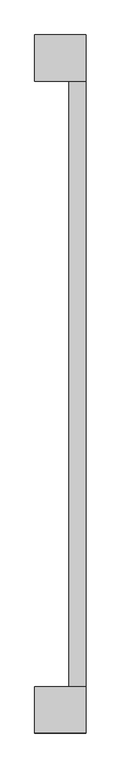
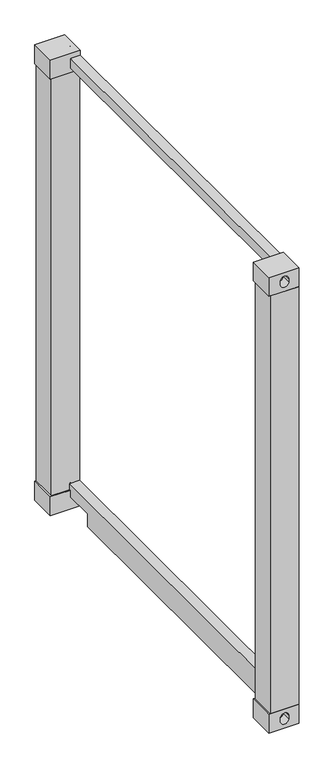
"""IFC4 building model written with IfcOpenShell, lengths in millimetres: beam geometry, Config-6 Right side wall acc : Config-6 Right side wall acc."""

from ifc_helpers import new_model, si_unit, frame, origin, place, context, project, spatial, polyline, circle_curve, ellipse_curve, outline, extrude, source, transform, mapped, element, save
from ifc_brep_helpers import plane_surface, revolved_surface, advanced_brep


def beam_f05dd575(model_context):
    return source(origin(), model_context, "Body", "SolidModel", [
        advanced_brep(
        [(2811.0, 102.6814789, 120.0), (2811.0, -59.3185165, 120.0), (2991.0, -59.3185165, 120.0), (2991.0, 102.6814789, 120.0), (2811.0, 102.6814789, 2.7e-06), (2991.0, 102.6814789, 2.7e-06), (2991.0, -59.3185165, 2.7e-06), (2811.0, -59.3185165, 2.7e-06), (2991.0, -1.8185152, 69.9917958), (2991.0, 48.1814807, 69.9881424), (2991.0, 48.1814807, 49.9881424), (2991.0, -1.8185152, 49.9917958), (2881.0, -59.3185165, 70.0000027), (2931.0, -59.3185165, 70.0000027), (2931.0000022, -59.3185165, 50.0000031), (2881.0, -59.3185165, 50.0000027), (2881.5, -1.3185165, 45.0250655), (2930.5, -1.3185165, 45.0250655), (2930.5, -1.3185165, 74.9749399), (2881.5, -1.3185165, 74.9749399), (2881.0, -1.8185165, 70.0000027), (2931.0, -1.8185165, 70.0000027), (2931.0000022, -1.8185152, 50.0000031), (2881.0, -1.8185152, 50.0000027), (2880.9999973, 48.1814807, 49.9881424), (2880.9999973, 48.1814807, 69.9881424)],
        [
            (0, 1),
            (1, 2),
            (2, 3),
            (3, 0),
            (4, 5),
            (5, 6),
            (6, 7),
            (7, 4),
            (3, 5),
            (4, 0),
            (2, 6),
            (8, 9, circle_curve(frame((2991.0, 23.1814835, 70.0000027), z_axis=(-1.0, 0.0, 0.0), x_axis=(0.0, -1.0000000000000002, 0.0)), 25.0)),
            (9, 10),
            (10, 11, circle_curve(frame((2991.0, 23.1814835, 50.0000027), z_axis=(-1.0, 0.0, 0.0), x_axis=(0.0, -1.0000000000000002, 0.0)), 25.0)),
            (11, 8),
            (1, 7),
            (12, 13, circle_curve(frame((2906.0, -59.3185165, 70.0000027), z_axis=(0.0, 1.0, 0.0), x_axis=(1.0000000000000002, 0.0, 0.0)), 25.0)),
            (13, 14),
            (14, 15, circle_curve(frame((2906.0, -59.3185165, 50.0000027), z_axis=(0.0, 1.0, 0.0), x_axis=(1.0000000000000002, 0.0, 0.0)), 25.0)),
            (15, 12),
            (16, 17, circle_curve(frame((2906.0, -1.3185165, 50.0000027), z_axis=(0.0, -1.0, 0.0), x_axis=(1.0000000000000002, 0.0, 0.0)), 25.0)),
            (17, 16),
            (18, 19, circle_curve(frame((2906.0, -1.3185165, 70.0000027), z_axis=(0.0, -1.0, 0.0), x_axis=(1.0000000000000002, 0.0, 0.0)), 25.0)),
            (19, 18),
            (12, 20),
            (20, 19, ellipse_curve(frame((2906.0, 23.1814835, 70.0000027), z_axis=(-0.7071067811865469, 0.7071067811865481, 0.0), x_axis=(-0.707106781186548, -0.7071067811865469, 0.0)), 35.3553391, 25.0)),
            (18, 21, ellipse_curve(frame((2906.0, 23.1814835, 70.0000027), z_axis=(0.7071067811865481, 0.7071067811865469, 0.0), x_axis=(0.7071067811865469, -0.7071067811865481, 0.0)), 35.3553391, 25.0)),
            (21, 13),
            (21, 22),
            (22, 14),
            (22, 17, ellipse_curve(frame((2906.0, 23.1814835, 50.0000027), z_axis=(0.7071067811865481, 0.7071067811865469, 0.0), x_axis=(0.7071067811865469, -0.7071067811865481, 0.0)), 35.3553391, 25.0)),
            (16, 23, ellipse_curve(frame((2906.0, 23.1814835, 50.0000027), z_axis=(-0.7071067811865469, 0.7071067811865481, 0.0), x_axis=(-0.707106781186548, -0.7071067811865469, 0.0)), 35.3553391, 25.0)),
            (23, 15),
            (23, 24, circle_curve(frame((2880.9999973, 23.1814835, 50.0000027), z_axis=(1.0, 0.0, 0.0), x_axis=(0.0, -1.0000000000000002, 0.0)), 25.0)),
            (24, 25),
            (25, 20, circle_curve(frame((2880.9999973, 23.1814835, 70.0000027), z_axis=(1.0, 0.0, 0.0), x_axis=(0.0, -1.0000000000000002, 0.0)), 25.0)),
            (25, 9),
            (8, 21),
            (11, 22),
            (10, 24),
        ],
        [
            plane_surface(frame((2811.0, 102.6814789, 120.0), z_axis=(0.0, 0.0, 1.0), x_axis=(0.0, -1.0, 0.0))),
            plane_surface(frame((2811.0, 102.6814789, 2.7e-06), z_axis=(0.0, 0.0, -1.0), x_axis=(0.0, 1.0, 0.0))),
            plane_surface(frame((2991.0, 102.6814789, 120.0), z_axis=(0.0, 1.0, 0.0), x_axis=(0.0, 0.0, -1.0))),
            plane_surface(frame((2991.0, -59.3185165, 120.0), z_axis=(1.0, 0.0, 0.0), x_axis=(0.0, 0.0, -1.0))),
            plane_surface(frame((2811.0, -59.3185165, 120.0), z_axis=(0.0, -1.0, 0.0), x_axis=(0.0, 0.0, -1.0))),
            plane_surface(frame((2811.0, 102.6814789, 120.0), z_axis=(-1.0, 0.0, 0.0), x_axis=(0.0, 0.0, -1.0))),
            plane_surface(frame((2880.9999973, -1.3185165, 70.0000042), z_axis=(0.0, -1.0, 0.0), x_axis=(0.0, 0.0, 1.0))),
            revolved_surface(polyline([(2931.0, -59.31851650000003, 70.0000027), (2931.0, 48.181483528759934, 70.0000027)]), (2906.0, -1.3185165, 70.0000027), (0.0, -1.0000000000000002, 0.0)),
            plane_surface(frame((2931.0000022, -59.3185165, 50.0000031), z_axis=(-1.0, 0.0, 0.0), x_axis=(0.0, 1.0, 0.0))),
            revolved_surface(polyline([(2931.0, -59.31851650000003, 50.0000027), (2931.0, 48.181483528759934, 50.0000027)]), (2906.0, -1.3185165, 50.0000027), (0.0, -1.0000000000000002, 0.0)),
            plane_surface(frame((2880.9999973, -59.3185165, 70.0000042), z_axis=(1.0, 0.0, 0.0), x_axis=(0.0, 1.0, 0.0))),
            revolved_surface(polyline([(2991.0, -1.8185165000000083, 70.0000027), (2880.9999973, -1.8185165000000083, 70.0000027)]), (2881.0, 23.1814835, 70.0000027), (1.0000000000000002, 0.0, 0.0)),
            plane_surface(frame((2991.0, -1.8185152, 69.9917958), z_axis=(0.0, 1.0, 0.0), x_axis=(-1.0, 0.0, 0.0))),
            revolved_surface(polyline([(2991.0, -1.8185165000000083, 50.0000027), (2880.9999973, -1.8185165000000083, 50.0000027)]), (2881.0, 23.1814835, 50.0000027), (1.0000000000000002, 0.0, 0.0)),
            plane_surface(frame((2991.0, 48.1814807, 49.9881424), z_axis=(0.0, -1.0, 0.0), x_axis=(-1.0, 0.0, 0.0))),
        ],
        [
            (0, [[1, 2, 3, 4]]),
            (1, [[5, 6, 7, 8]]),
            (2, [[-4, 9, -5, 10]]),
            (3, [[-3, 11, -6, -9], [12, 13, 14, 15]]),
            (4, [[-2, 16, -7, -11], [17, 18, 19, 20]]),
            (5, [[-1, -10, -8, -16]]),
            (6, [[21, 22]]),
            (6, [[23, 24]]),
            (7, [[-17, 25, 26, -23, 27, 28]]),
            (8, [[-18, -28, 29, 30]]),
            (9, [[-19, -30, 31, -21, 32, 33]]),
            (10, [[-20, -33, 34, 35, 36, -25]]),
            (11, [[-36, 37, -12, 38, -27, -24, -26]]),
            (12, [[-38, -15, 39, -29]]),
            (13, [[-34, -32, -22, -31, -39, -14, 40]]),
            (14, [[-35, -40, -13, -37]]),
        ],
    ),
        advanced_brep(
        [(2811.0, 2218.6814881, 120.0), (2991.0, 2218.6814881, 120.0), (2991.0, 2380.6814835, 120.0), (2811.0, 2380.6814835, 120.0), (2811.0, 2218.6814881, 2.7e-06), (2811.0, 2380.6814835, 2.7e-06), (2991.0, 2380.6814835, 2.7e-06), (2991.0, 2218.6814881, 2.7e-06), (2991.0, 2323.1814821, 69.9917958), (2991.0, 2323.1814821, 49.9917958), (2991.0, 2273.1814863, 49.9881424), (2991.0, 2273.1814863, 69.9881424), (2880.9999973, 2380.6814835, 70.0000027), (2880.9999973, 2380.6814835, 50.0000027), (2931.0, 2380.6814835, 50.0000031), (2931.0000022, 2380.6814835, 70.0000027), (2881.5, 2322.6814835, 45.0250655), (2930.5, 2322.6814835, 45.0250655), (2930.5, 2322.6814835, 74.9749399), (2881.5, 2322.6814835, 74.9749399), (2931.0, 2323.1814835, 70.0000027), (2881.0, 2323.1814835, 70.0000027), (2931.0000022, 2323.1814821, 50.0000031), (2881.0, 2323.1814821, 50.0000027), (2880.9999973, 2273.1814863, 69.9881424), (2880.9999973, 2273.1814863, 49.9881424)],
        [
            (0, 1),
            (1, 2),
            (2, 3),
            (3, 0),
            (4, 5),
            (5, 6),
            (6, 7),
            (7, 4),
            (0, 4),
            (7, 1),
            (6, 2),
            (8, 9),
            (9, 10, circle_curve(frame((2991.0, 2298.1814835, 50.0000027), z_axis=(-1.0, 0.0, 0.0), x_axis=(0.0, 1.0000000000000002, 0.0)), 25.0)),
            (10, 11),
            (11, 8, circle_curve(frame((2991.0, 2298.1814835, 70.0000027), z_axis=(-1.0, 0.0, 0.0), x_axis=(0.0, 1.0000000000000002, 0.0)), 25.0)),
            (5, 3),
            (12, 13),
            (13, 14, circle_curve(frame((2906.0, 2380.6814835, 50.0000027), z_axis=(0.0, -1.0, 0.0), x_axis=(1.0000000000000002, 0.0, 0.0)), 25.0)),
            (14, 15),
            (15, 12, circle_curve(frame((2906.0, 2380.6814835, 70.0000027), z_axis=(0.0, -1.0, 0.0), x_axis=(1.0000000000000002, 0.0, 0.0)), 25.0)),
            (16, 17),
            (17, 16, circle_curve(frame((2906.0, 2322.6814835, 50.0000027), z_axis=(0.0, 1.0, 0.0), x_axis=(1.0000000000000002, 0.0, 0.0)), 25.0)),
            (18, 19),
            (19, 18, circle_curve(frame((2906.0, 2322.6814835, 70.0000027), z_axis=(0.0, 1.0, 0.0), x_axis=(1.0000000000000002, 0.0, 0.0)), 25.0)),
            (15, 20),
            (20, 18, ellipse_curve(frame((2906.0, 2298.1814835, 70.0000027), z_axis=(0.7071067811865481, -0.7071067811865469, 0.0), x_axis=(0.7071067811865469, 0.7071067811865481, 0.0)), 35.3553391, 25.0)),
            (19, 21, ellipse_curve(frame((2906.0, 2298.1814835, 70.0000027), z_axis=(-0.7071067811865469, -0.7071067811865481, 0.0), x_axis=(-0.707106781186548, 0.7071067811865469, 0.0)), 35.3553391, 25.0)),
            (21, 12),
            (14, 22),
            (22, 20),
            (13, 23),
            (23, 16, ellipse_curve(frame((2906.0, 2298.1814835, 50.0000027), z_axis=(-0.7071067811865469, -0.7071067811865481, 0.0), x_axis=(-0.707106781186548, 0.7071067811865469, 0.0)), 35.3553391, 25.0)),
            (17, 22, ellipse_curve(frame((2906.0, 2298.1814835, 50.0000027), z_axis=(0.7071067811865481, -0.7071067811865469, 0.0), x_axis=(0.7071067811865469, 0.7071067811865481, 0.0)), 35.3553391, 25.0)),
            (21, 24, circle_curve(frame((2880.9999973, 2298.1814835, 70.0000027), z_axis=(1.0, 0.0, 0.0), x_axis=(0.0, 1.0000000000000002, 0.0)), 25.0)),
            (24, 25),
            (25, 23, circle_curve(frame((2880.9999973, 2298.1814835, 50.0000027), z_axis=(1.0, 0.0, 0.0), x_axis=(0.0, 1.0000000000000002, 0.0)), 25.0)),
            (20, 8),
            (11, 24),
            (22, 9),
            (25, 10),
        ],
        [
            plane_surface(frame((2811.0, 2218.6814881, 120.0), z_axis=(0.0, 0.0, 1.0), x_axis=(0.0, 1.0, 0.0))),
            plane_surface(frame((2811.0, 2218.6814881, 2.7e-06), z_axis=(0.0, 0.0, -1.0), x_axis=(0.0, -1.0, 0.0))),
            plane_surface(frame((2991.0, 2218.6814881, 120.0), z_axis=(0.0, -1.0, 0.0), x_axis=(0.0, 0.0, -1.0))),
            plane_surface(frame((2991.0, 2380.6814835, 120.0), z_axis=(1.0, 0.0, 0.0), x_axis=(0.0, 0.0, -1.0))),
            plane_surface(frame((2811.0, 2380.6814835, 120.0), z_axis=(0.0, 1.0, 0.0), x_axis=(0.0, 0.0, -1.0))),
            plane_surface(frame((2811.0, 2218.6814881, 120.0), z_axis=(-1.0, 0.0, 0.0), x_axis=(0.0, 0.0, -1.0))),
            plane_surface(frame((2880.9999973, 2322.6814835, 70.0000042), z_axis=(0.0, 1.0, 0.0), x_axis=(0.0, 0.0, 1.0))),
            revolved_surface(polyline([(2931.0, 2380.6814835, 70.0000027), (2931.0, 2273.18148347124, 70.0000027)]), (2906.0, 2322.6814835, 70.0000027), (0.0, 1.0000000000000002, 0.0)),
            plane_surface(frame((2931.0000022, 2380.6814835, 50.0000031), z_axis=(-1.0, 0.0, 0.0), x_axis=(0.0, -1.0, 0.0))),
            revolved_surface(polyline([(2931.0, 2380.6814835, 50.0000027), (2931.0, 2273.18148347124, 50.0000027)]), (2906.0, 2322.6814835, 50.0000027), (0.0, 1.0000000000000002, 0.0)),
            plane_surface(frame((2880.9999973, 2380.6814835, 70.0000042), z_axis=(1.0, 0.0, 0.0), x_axis=(0.0, -1.0, 0.0))),
            revolved_surface(polyline([(2991.0, 2323.1814835, 70.0000027), (2880.9999973, 2323.1814835, 70.0000027)]), (2881.0, 2298.1814835, 70.0000027), (1.0000000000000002, 0.0, 0.0)),
            plane_surface(frame((2991.0, 2323.1814821, 69.9917958), z_axis=(0.0, -1.0, 0.0), x_axis=(-1.0, 0.0, 0.0))),
            revolved_surface(polyline([(2991.0, 2323.1814835, 50.0000027), (2880.9999973, 2323.1814835, 50.0000027)]), (2881.0, 2298.1814835, 50.0000027), (1.0000000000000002, 0.0, 0.0)),
            plane_surface(frame((2991.0, 2273.1814863, 49.9881424), z_axis=(0.0, 1.0, 0.0), x_axis=(-1.0, 0.0, 0.0))),
        ],
        [
            (0, [[1, 2, 3, 4]]),
            (1, [[5, 6, 7, 8]]),
            (2, [[9, -8, 10, -1]]),
            (3, [[-10, -7, 11, -2], [12, 13, 14, 15]]),
            (4, [[-11, -6, 16, -3], [17, 18, 19, 20]]),
            (5, [[-16, -5, -9, -4]]),
            (6, [[21, 22]]),
            (6, [[23, 24]]),
            (7, [[25, 26, -24, 27, 28, -20]]),
            (8, [[29, 30, -25, -19]]),
            (9, [[31, 32, -22, 33, -29, -18]]),
            (10, [[-28, 34, 35, 36, -31, -17]]),
            (11, [[-27, -23, -26, 37, -15, 38, -34]]),
            (12, [[-30, 39, -12, -37]]),
            (13, [[40, -13, -39, -33, -21, -32, -36]]),
            (14, [[-38, -14, -40, -35]]),
        ],
    ),
        advanced_brep(
        [(2811.0, 102.6814789, 2895.9999973), (2811.0, -59.3185165, 2895.9999973), (2991.0, -59.3185165, 2895.9999973), (2991.0, 102.6814789, 2895.9999973), (2811.0, 102.6814789, 2776.0), (2991.0, 102.6814789, 2776.0), (2991.0, -59.3185165, 2776.0), (2811.0, -59.3185165, 2776.0), (2991.0, -1.8185152, 2845.9917931), (2991.0, 48.1814807, 2845.9881397), (2991.0, 48.1814807, 2825.9881397), (2991.0, -1.8185152, 2825.9917931), (2881.0, -59.3185165, 2846.0), (2931.0, -59.3185165, 2846.0), (2931.0000022, -59.3185165, 2826.0000004), (2881.0, -59.3185165, 2826.0), (2881.5, -1.3185165, 2821.0250628), (2930.5, -1.3185165, 2821.0250628), (2930.5, -1.3185165, 2850.9749372), (2881.5, -1.3185165, 2850.9749372), (2881.0, -1.8185165, 2846.0), (2931.0, -1.8185165, 2846.0), (2931.0000022, -1.8185152, 2826.0000004), (2881.0, -1.8185152, 2826.0), (2880.9999973, 48.1814807, 2825.9881397), (2880.9999973, 48.1814807, 2845.9881397)],
        [
            (0, 1),
            (1, 2),
            (2, 3),
            (3, 0),
            (4, 5),
            (5, 6),
            (6, 7),
            (7, 4),
            (3, 5),
            (4, 0),
            (2, 6),
            (8, 9, circle_curve(frame((2991.0, 23.1814835, 2846.0), z_axis=(-1.0, 0.0, 0.0), x_axis=(0.0, -1.0000000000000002, 0.0)), 25.0)),
            (9, 10),
            (10, 11, circle_curve(frame((2991.0, 23.1814835, 2826.0), z_axis=(-1.0, 0.0, 0.0), x_axis=(0.0, -1.0000000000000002, 0.0)), 25.0)),
            (11, 8),
            (1, 7),
            (12, 13, circle_curve(frame((2906.0, -59.3185165, 2846.0), z_axis=(0.0, 1.0, 0.0), x_axis=(1.0000000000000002, 0.0, 0.0)), 25.0)),
            (13, 14),
            (14, 15, circle_curve(frame((2906.0, -59.3185165, 2826.0), z_axis=(0.0, 1.0, 0.0), x_axis=(1.0000000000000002, 0.0, 0.0)), 25.0)),
            (15, 12),
            (16, 17, circle_curve(frame((2906.0, -1.3185165, 2826.0), z_axis=(0.0, -1.0, 0.0), x_axis=(1.0000000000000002, 0.0, 0.0)), 25.0)),
            (17, 16),
            (18, 19, circle_curve(frame((2906.0, -1.3185165, 2846.0), z_axis=(0.0, -1.0, 0.0), x_axis=(1.0000000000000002, 0.0, 0.0)), 25.0)),
            (19, 18),
            (12, 20),
            (20, 19, ellipse_curve(frame((2906.0, 23.1814835, 2846.0), z_axis=(-0.7071067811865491, 0.7071067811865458, 0.0), x_axis=(-0.7071067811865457, -0.7071067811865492, 0.0)), 35.3553391, 25.0)),
            (18, 21, ellipse_curve(frame((2906.0, 23.1814835, 2846.0), z_axis=(0.7071067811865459, 0.7071067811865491, 0.0), x_axis=(0.7071067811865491, -0.7071067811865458, 0.0)), 35.3553391, 25.0)),
            (21, 13),
            (21, 22),
            (22, 14),
            (22, 17, ellipse_curve(frame((2906.0, 23.1814835, 2826.0), z_axis=(0.7071067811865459, 0.7071067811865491, 0.0), x_axis=(0.7071067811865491, -0.7071067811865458, 0.0)), 35.3553391, 25.0)),
            (16, 23, ellipse_curve(frame((2906.0, 23.1814835, 2826.0), z_axis=(-0.7071067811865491, 0.7071067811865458, 0.0), x_axis=(-0.7071067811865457, -0.7071067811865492, 0.0)), 35.3553391, 25.0)),
            (23, 15),
            (23, 24, circle_curve(frame((2880.9999973, 23.1814835, 2826.0), z_axis=(1.0, 0.0, 0.0), x_axis=(0.0, -1.0000000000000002, 0.0)), 25.0)),
            (24, 25),
            (25, 20, circle_curve(frame((2880.9999973, 23.1814835, 2846.0), z_axis=(1.0, 0.0, 0.0), x_axis=(0.0, -1.0000000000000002, 0.0)), 25.0)),
            (25, 9),
            (8, 21),
            (11, 22),
            (10, 24),
        ],
        [
            plane_surface(frame((2811.0, 102.6814789, 2895.9999973), z_axis=(0.0, 0.0, 1.0), x_axis=(0.0, -1.0, 0.0))),
            plane_surface(frame((2811.0, 102.6814789, 2776.0), z_axis=(0.0, 0.0, -1.0), x_axis=(0.0, 1.0, 0.0))),
            plane_surface(frame((2991.0, 102.6814789, 2895.9999973), z_axis=(0.0, 1.0, 0.0), x_axis=(0.0, 0.0, -1.0))),
            plane_surface(frame((2991.0, -59.3185165, 2895.9999973), z_axis=(1.0, 0.0, 0.0), x_axis=(0.0, 0.0, -1.0))),
            plane_surface(frame((2811.0, -59.3185165, 2895.9999973), z_axis=(0.0, -1.0, 0.0), x_axis=(0.0, 0.0, -1.0))),
            plane_surface(frame((2811.0, 102.6814789, 2895.9999973), z_axis=(-1.0, 0.0, 0.0), x_axis=(0.0, 0.0, -1.0))),
            plane_surface(frame((2880.9999973, -1.3185165, 2846.0000014), z_axis=(0.0, -1.0, 0.0), x_axis=(0.0, 0.0, 1.0))),
            revolved_surface(polyline([(2931.0, -59.31851650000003, 2846.0), (2931.0, 48.18148352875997, 2846.0)]), (2906.0, -1.3185165, 2846.0), (0.0, -1.0000000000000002, 0.0)),
            plane_surface(frame((2931.0000022, -59.3185165, 2826.0000004), z_axis=(-1.0, 0.0, 0.0), x_axis=(0.0, 1.0, 0.0))),
            revolved_surface(polyline([(2931.0, -59.31851650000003, 2826.0), (2931.0, 48.18148352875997, 2826.0)]), (2906.0, -1.3185165, 2826.0), (0.0, -1.0000000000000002, 0.0)),
            plane_surface(frame((2880.9999973, -59.3185165, 2846.0000014), z_axis=(1.0, 0.0, 0.0), x_axis=(0.0, 1.0, 0.0))),
            revolved_surface(polyline([(2991.0, -1.8185165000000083, 2846.0), (2880.9999973, -1.8185165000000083, 2846.0)]), (2881.0, 23.1814835, 2846.0), (1.0000000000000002, 0.0, 0.0)),
            plane_surface(frame((2991.0, -1.8185152, 2845.9917931), z_axis=(0.0, 1.0, 0.0), x_axis=(-1.0, 0.0, 0.0))),
            revolved_surface(polyline([(2991.0, -1.8185165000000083, 2826.0), (2880.9999973, -1.8185165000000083, 2826.0)]), (2881.0, 23.1814835, 2826.0), (1.0000000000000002, 0.0, 0.0)),
            plane_surface(frame((2991.0, 48.1814807, 2825.9881397), z_axis=(0.0, -1.0, 0.0), x_axis=(-1.0, 0.0, 0.0))),
        ],
        [
            (0, [[1, 2, 3, 4]]),
            (1, [[5, 6, 7, 8]]),
            (2, [[-4, 9, -5, 10]]),
            (3, [[-3, 11, -6, -9], [12, 13, 14, 15]]),
            (4, [[-2, 16, -7, -11], [17, 18, 19, 20]]),
            (5, [[-1, -10, -8, -16]]),
            (6, [[21, 22]]),
            (6, [[23, 24]]),
            (7, [[-17, 25, 26, -23, 27, 28]]),
            (8, [[-18, -28, 29, 30]]),
            (9, [[-19, -30, 31, -21, 32, 33]]),
            (10, [[-20, -33, 34, 35, 36, -25]]),
            (11, [[-36, 37, -12, 38, -27, -24, -26]]),
            (12, [[-38, -15, 39, -29]]),
            (13, [[-34, -32, -22, -31, -39, -14, 40]]),
            (14, [[-35, -40, -13, -37]]),
        ],
    ),
        advanced_brep(
        [(2811.0, 2218.6814881, 2895.9999973), (2991.0, 2218.6814881, 2895.9999973), (2991.0, 2380.6814835, 2895.9999973), (2811.0, 2380.6814835, 2895.9999973), (2811.0, 2218.6814881, 2776.0), (2811.0, 2380.6814835, 2776.0), (2991.0, 2380.6814835, 2776.0), (2991.0, 2218.6814881, 2776.0), (2991.0, 2323.1814821, 2845.9917931), (2991.0, 2323.1814821, 2825.9917931), (2991.0, 2273.1814863, 2825.9881397), (2991.0, 2273.1814863, 2845.9881397), (2880.9999973, 2380.6814835, 2846.0), (2880.9999973, 2380.6814835, 2826.0), (2931.0, 2380.6814835, 2826.0000004), (2931.0000022, 2380.6814835, 2846.0), (2881.5, 2322.6814835, 2821.0250628), (2930.5, 2322.6814835, 2821.0250628), (2930.5, 2322.6814835, 2850.9749372), (2881.5, 2322.6814835, 2850.9749372), (2931.0, 2323.1814835, 2846.0), (2881.0, 2323.1814835, 2846.0), (2931.0000022, 2323.1814821, 2826.0000004), (2881.0, 2323.1814821, 2826.0), (2880.9999973, 2273.1814863, 2845.9881397), (2880.9999973, 2273.1814863, 2825.9881397)],
        [
            (0, 1),
            (1, 2),
            (2, 3),
            (3, 0),
            (4, 5),
            (5, 6),
            (6, 7),
            (7, 4),
            (0, 4),
            (7, 1),
            (6, 2),
            (8, 9),
            (9, 10, circle_curve(frame((2991.0, 2298.1814835, 2826.0), z_axis=(-1.0, 0.0, 0.0), x_axis=(0.0, 1.0000000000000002, 0.0)), 25.0)),
            (10, 11),
            (11, 8, circle_curve(frame((2991.0, 2298.1814835, 2846.0), z_axis=(-1.0, 0.0, 0.0), x_axis=(0.0, 1.0000000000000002, 0.0)), 25.0)),
            (5, 3),
            (12, 13),
            (13, 14, circle_curve(frame((2906.0, 2380.6814835, 2826.0), z_axis=(0.0, -1.0, 0.0), x_axis=(1.0000000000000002, 0.0, 0.0)), 25.0)),
            (14, 15),
            (15, 12, circle_curve(frame((2906.0, 2380.6814835, 2846.0), z_axis=(0.0, -1.0, 0.0), x_axis=(1.0000000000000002, 0.0, 0.0)), 25.0)),
            (16, 17),
            (17, 16, circle_curve(frame((2906.0, 2322.6814835, 2826.0), z_axis=(0.0, 1.0, 0.0), x_axis=(1.0000000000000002, 0.0, 0.0)), 25.0)),
            (18, 19),
            (19, 18, circle_curve(frame((2906.0, 2322.6814835, 2846.0), z_axis=(0.0, 1.0, 0.0), x_axis=(1.0000000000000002, 0.0, 0.0)), 25.0)),
            (15, 20),
            (20, 18, ellipse_curve(frame((2906.0, 2298.1814835, 2846.0), z_axis=(0.7071067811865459, -0.7071067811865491, 0.0), x_axis=(0.7071067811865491, 0.7071067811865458, 0.0)), 35.3553391, 25.0)),
            (19, 21, ellipse_curve(frame((2906.0, 2298.1814835, 2846.0), z_axis=(-0.7071067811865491, -0.7071067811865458, 0.0), x_axis=(-0.7071067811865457, 0.7071067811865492, 0.0)), 35.3553391, 25.0)),
            (21, 12),
            (14, 22),
            (22, 20),
            (13, 23),
            (23, 16, ellipse_curve(frame((2906.0, 2298.1814835, 2826.0), z_axis=(-0.7071067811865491, -0.7071067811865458, 0.0), x_axis=(-0.7071067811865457, 0.7071067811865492, 0.0)), 35.3553391, 25.0)),
            (17, 22, ellipse_curve(frame((2906.0, 2298.1814835, 2826.0), z_axis=(0.7071067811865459, -0.7071067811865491, 0.0), x_axis=(0.7071067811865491, 0.7071067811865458, 0.0)), 35.3553391, 25.0)),
            (21, 24, circle_curve(frame((2880.9999973, 2298.1814835, 2846.0), z_axis=(1.0, 0.0, 0.0), x_axis=(0.0, 1.0000000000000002, 0.0)), 25.0)),
            (24, 25),
            (25, 23, circle_curve(frame((2880.9999973, 2298.1814835, 2826.0), z_axis=(1.0, 0.0, 0.0), x_axis=(0.0, 1.0000000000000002, 0.0)), 25.0)),
            (20, 8),
            (11, 24),
            (22, 9),
            (25, 10),
        ],
        [
            plane_surface(frame((2811.0, 2218.6814881, 2895.9999973), z_axis=(0.0, 0.0, 1.0), x_axis=(0.0, 1.0, 0.0))),
            plane_surface(frame((2811.0, 2218.6814881, 2776.0), z_axis=(0.0, 0.0, -1.0), x_axis=(0.0, -1.0, 0.0))),
            plane_surface(frame((2991.0, 2218.6814881, 2895.9999973), z_axis=(0.0, -1.0, 0.0), x_axis=(0.0, 0.0, -1.0))),
            plane_surface(frame((2991.0, 2380.6814835, 2895.9999973), z_axis=(1.0, 0.0, 0.0), x_axis=(0.0, 0.0, -1.0))),
            plane_surface(frame((2811.0, 2380.6814835, 2895.9999973), z_axis=(0.0, 1.0, 0.0), x_axis=(0.0, 0.0, -1.0))),
            plane_surface(frame((2811.0, 2218.6814881, 2895.9999973), z_axis=(-1.0, 0.0, 0.0), x_axis=(0.0, 0.0, -1.0))),
            plane_surface(frame((2880.9999973, 2322.6814835, 2846.0000014), z_axis=(0.0, 1.0, 0.0), x_axis=(0.0, 0.0, 1.0))),
            revolved_surface(polyline([(2931.0, 2380.6814835, 2846.0), (2931.0, 2273.18148347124, 2846.0)]), (2906.0, 2322.6814835, 2846.0), (0.0, 1.0000000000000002, 0.0)),
            plane_surface(frame((2931.0000022, 2380.6814835, 2826.0000004), z_axis=(-1.0, 0.0, 0.0), x_axis=(0.0, -1.0, 0.0))),
            revolved_surface(polyline([(2931.0, 2380.6814835, 2826.0), (2931.0, 2273.18148347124, 2826.0)]), (2906.0, 2322.6814835, 2826.0), (0.0, 1.0000000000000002, 0.0)),
            plane_surface(frame((2880.9999973, 2380.6814835, 2846.0000014), z_axis=(1.0, 0.0, 0.0), x_axis=(0.0, -1.0, 0.0))),
            revolved_surface(polyline([(2991.0, 2323.1814835, 2846.0), (2880.9999973, 2323.1814835, 2846.0)]), (2881.0, 2298.1814835, 2846.0), (1.0000000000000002, 0.0, 0.0)),
            plane_surface(frame((2991.0, 2323.1814821, 2845.9917931), z_axis=(0.0, -1.0, 0.0), x_axis=(-1.0, 0.0, 0.0))),
            revolved_surface(polyline([(2991.0, 2323.1814835, 2826.0), (2880.9999973, 2323.1814835, 2826.0)]), (2881.0, 2298.1814835, 2826.0), (1.0000000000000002, 0.0, 0.0)),
            plane_surface(frame((2991.0, 2273.1814863, 2825.9881397), z_axis=(0.0, 1.0, 0.0), x_axis=(-1.0, 0.0, 0.0))),
        ],
        [
            (0, [[1, 2, 3, 4]]),
            (1, [[5, 6, 7, 8]]),
            (2, [[9, -8, 10, -1]]),
            (3, [[-10, -7, 11, -2], [12, 13, 14, 15]]),
            (4, [[-11, -6, 16, -3], [17, 18, 19, 20]]),
            (5, [[-16, -5, -9, -4]]),
            (6, [[21, 22]]),
            (6, [[23, 24]]),
            (7, [[25, 26, -24, 27, 28, -20]]),
            (8, [[29, 30, -25, -19]]),
            (9, [[31, 32, -22, 33, -29, -18]]),
            (10, [[-28, 34, 35, 36, -31, -17]]),
            (11, [[-27, -23, -26, 37, -15, 38, -34]]),
            (12, [[-30, 39, -12, -37]]),
            (13, [[40, -13, -39, -33, -21, -32, -36]]),
            (14, [[-38, -14, -40, -35]]),
        ],
    ),
        extrude(outline(polyline([(287.1048913, 2.7e-06), (287.1048913, 80.000007), (100.1048971, 80.000007), (100.1048971, 160.0000112), (2224.104864, 160.0000112), (2224.104864, 80.000007), (2037.104941, 80.000007), (2037.104941, 2.7e-06), (287.1048913, 2.7e-06)])), frame((2931.0, 0.0, 0.0), z_axis=(1.0, 0.0, 0.0), x_axis=(0.0, 1.0, 0.0)), (0.0, 0.0, 1.0), 60.0),
        extrude(outline(polyline([(2991.0, 102.6814789), (2931.0000014, 102.6814789), (2931.0000014, 2218.6814881), (2991.0, 2218.6814881), (2991.0, 102.6814789)])), frame((0.0, 0.0, 2806.0), z_axis=(0.0, 0.0, 1.0), x_axis=(1.0, 0.0, 0.0)), (0.0, 0.0, 1.0), 60.0),
        extrude(outline(polyline([(2991.0, 2380.6814835), (2991.0, 2225.6814835), (2820.0, 2225.6814835), (2820.0, 2380.6814835), (2991.0, 2380.6814835)])), frame((0.0, 0.0, 120.0), z_axis=(0.0, 0.0, 1.0), x_axis=(1.0, 0.0, 0.0)), (0.0, 0.0, 1.0), 2656.0),
        extrude(outline(polyline([(2991.0, 95.6814835), (2991.0, -59.3185165), (2820.0, -59.3185165), (2820.0, 95.6814835), (2991.0, 95.6814835)])), frame((0.0, 0.0, 120.0), z_axis=(0.0, 0.0, 1.0), x_axis=(1.0, 0.0, 0.0)), (0.0, 0.0, 1.0), 2656.0),
    ])


if __name__ == "__main__":
    model = new_model("IFC4")
    model_context = context("Model", 3, world=origin())
    ifc_project = project(units=[si_unit("LENGTHUNIT", "METRE", prefix="MILLI")], contexts=[model_context])
    site = spatial("IfcSite", under=ifc_project)
    building = spatial("IfcBuilding", under=site)
    placement = place(None, origin())
    beam_shape = beam_f05dd575(model_context)
    element("IfcBeam", 1, ObjectType="Config-6 Right side wall acc : Config-6 Right side wall acc", at=placement, inside=building, context=model_context, shape_type="MappedRepresentation", body=[
        mapped(beam_shape, transform((0.0, 0.0, 0.0), x_axis=(1.0, 0.0, 0.0), y_axis=(0.0, 1.0, 0.0), z_axis=(0.0, 0.0, 1.0))),
    ])
    save(model, "model.ifc")
